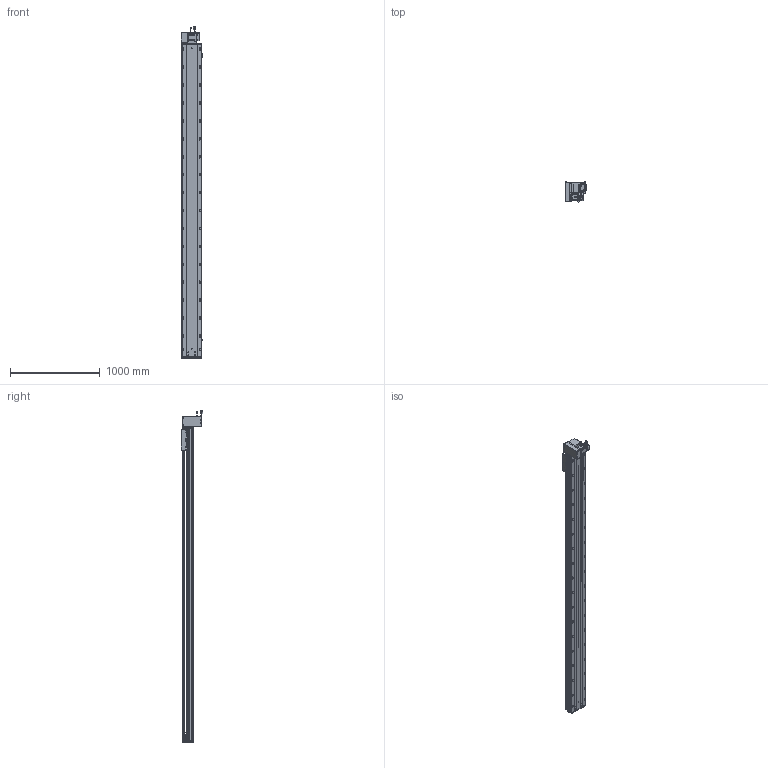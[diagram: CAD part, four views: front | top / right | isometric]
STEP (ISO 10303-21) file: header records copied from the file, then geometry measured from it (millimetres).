
FILE_DESCRIPTION (( 'STEP AP203' ), '1' );
FILE_NAME ('RY220-T-300-DL.SLDASM_3150.step', '2022-07-25T07:55:43', ( '' ), ( '' ), 'SwSTEP 2.0', 'SolidWorks 2016', '' );
FILE_SCHEMA (( 'CONFIG_CONTROL_DESIGN' ));
Length unit declared in the file: millimetre
Products named in the file (14): RY220翋肮祭謫釱; RY220-T-300-DL.SLDASM_3150; 110A-T-肮祭謫釱傷裔; RY220圉猾敕々湍臏賑輸; RY220-T-300-奻裔啣_3150; RY220-T-湍謫欶(鍼踢); 滅袉蝶18-15; 覜茼ん672; RY220-同步轮副支撑座6304×2; RY220-俋离672覜茼んえ; RY220-T菁釱-300_3150; RY220翋肮祭謫裔啣; RY220-T-蛌殏萇儂假蚾啣(750W); 怢湛750W_ECMA-CX0807ES
Assembly tree (18 placements, depth 2):
  RY220-T-300-DL.SLDASM_3150
    RY220-T菁釱-300_3150
    RY220翋肮祭謫釱
    覜茼ん672  x3
    RY220圉猾敕々湍臏賑輸
    RY220-T-300-奻裔啣_3150
    RY220-俋离672覜茼んえ
    滅袉蝶18-15  x3
    RY220翋肮祭謫裔啣  x2
    110A-T-肮祭謫釱傷裔
    怢湛750W_ECMA-CX0807ES
    RY220-T-湍謫欶(鍼踢)
    RY220-T-蛌殏萇儂假蚾啣(750W)
    RY220-同步轮副支撑座6304×2
Bounding box: 239.7 x 240.74 x 3703.27 mm (x, y, z)
Volume: 26173895.3 mm3; surface area: 8115781.6 mm2
Topology: 19 solids, 19 shells, 3066 faces, 8483 edges, 5302 vertices
Faces by surface type: cylinder 1522, plane 1069, cone 393, bspline 56, sphere 16, torus 10
Entity records: 102243 total; most frequent: CARTESIAN_POINT 28783, ORIENTED_EDGE 15162, DIRECTION 14688, EDGE_CURVE 7581, AXIS2_PLACEMENT_3D 5316, VERTEX_POINT 4926, VECTOR 4056, LINE 4056
